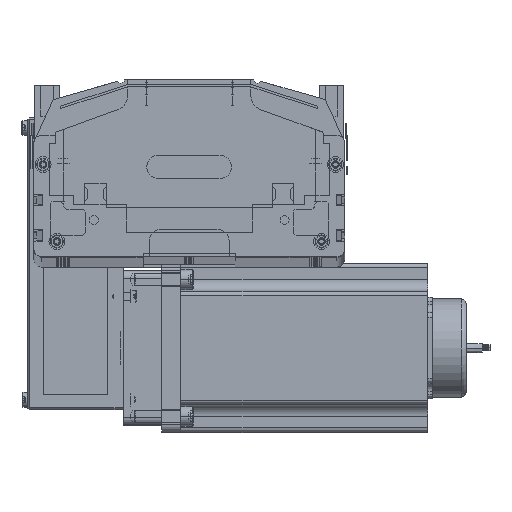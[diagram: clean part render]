
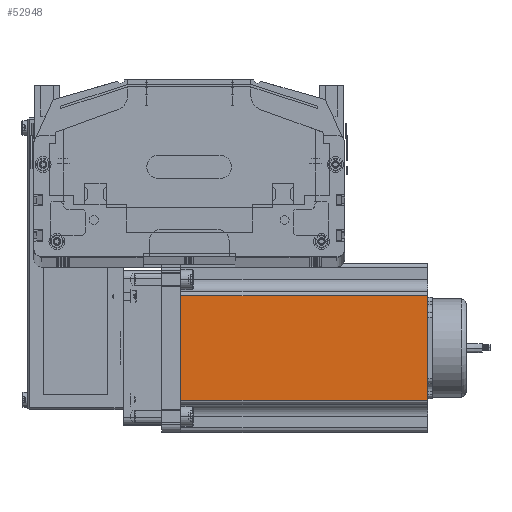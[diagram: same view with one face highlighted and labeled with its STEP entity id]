
A CAD part, top view. The second image highlights one B-rep face of the part: STEP entity #52948.
In plain terms, the highlighted planar face has unit normal (0, 0, 1) as drawn and (0, -1, 0) by its records, which use the part's own axes.
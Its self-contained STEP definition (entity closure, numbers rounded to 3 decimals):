
#28836 = CARTESIAN_POINT ( 'NONE',  ( 21.048, 0., 0. ) ) ;
#29069 = CARTESIAN_POINT ( 'NONE',  ( 88.952, 0., 0. ) ) ;
#31158 = DIRECTION ( 'NONE',  ( 0., 0., 1. ) ) ;
#31163 = DIRECTION ( 'NONE',  ( 0., 1., 0. ) ) ;
#31164 = CARTESIAN_POINT ( 'NONE',  ( 0., 0., 160.5 ) ) ;
#31169 = FACE_OUTER_BOUND ( 'NONE', #52917, .T. ) ;
#31201 = PLANE ( 'NONE',  #31224 ) ;
#31224 = AXIS2_PLACEMENT_3D ( 'NONE', #31164, #31163, #31158 ) ;
#45834 = EDGE_CURVE ( 'NONE', #52921, #52934, #74890, .T. ) ;
#45944 = VERTEX_POINT ( 'NONE', #75079 ) ;
#46158 = EDGE_CURVE ( 'NONE', #54138, #45944, #78682, .T. ) ;
#46160 = ORIENTED_EDGE ( 'NONE', *, *, #54140, .T. ) ;
#46180 = ORIENTED_EDGE ( 'NONE', *, *, #54106, .T. ) ;
#52917 = EDGE_LOOP ( 'NONE', ( #54827, #46180, #54168, #46160 ) ) ;
#52921 = VERTEX_POINT ( 'NONE', #28836 ) ;
#52934 = VERTEX_POINT ( 'NONE', #29069 ) ;
#52948 = ADVANCED_FACE ( 'NONE', ( #31169 ), #31201, .F. ) ;
#54106 = EDGE_CURVE ( 'NONE', #52934, #45944, #91553, .T. ) ;
#54138 = VERTEX_POINT ( 'NONE', #91649 ) ;
#54140 = EDGE_CURVE ( 'NONE', #54138, #52921, #91639, .T. ) ;
#54168 = ORIENTED_EDGE ( 'NONE', *, *, #46158, .F. ) ;
#54827 = ORIENTED_EDGE ( 'NONE', *, *, #45834, .T. ) ;
#74872 = DIRECTION ( 'NONE',  ( 1., 0., 0. ) ) ;
#74873 = VECTOR ( 'NONE', #74872, 1000. ) ;
#74874 = CARTESIAN_POINT ( 'NONE',  ( 0., 0., 0. ) ) ;
#74890 = LINE ( 'NONE', #74874, #74873 ) ;
#75079 = CARTESIAN_POINT ( 'NONE',  ( 88.952, 0., 160.5 ) ) ;
#78675 = DIRECTION ( 'NONE',  ( 1., 0., 0. ) ) ;
#78676 = VECTOR ( 'NONE', #78675, 1000. ) ;
#78677 = CARTESIAN_POINT ( 'NONE',  ( 0., 0., 160.5 ) ) ;
#78682 = LINE ( 'NONE', #78677, #78676 ) ;
#91533 = DIRECTION ( 'NONE',  ( 0., 0., 1. ) ) ;
#91534 = VECTOR ( 'NONE', #91533, 1000. ) ;
#91552 = CARTESIAN_POINT ( 'NONE',  ( 88.952, 0., 160.5 ) ) ;
#91553 = LINE ( 'NONE', #91552, #91534 ) ;
#91634 = DIRECTION ( 'NONE',  ( 0., 0., -1. ) ) ;
#91635 = VECTOR ( 'NONE', #91634, 1000. ) ;
#91636 = CARTESIAN_POINT ( 'NONE',  ( 21.048, 0., 160.5 ) ) ;
#91639 = LINE ( 'NONE', #91636, #91635 ) ;
#91649 = CARTESIAN_POINT ( 'NONE',  ( 21.048, 0., 160.5 ) ) ;
